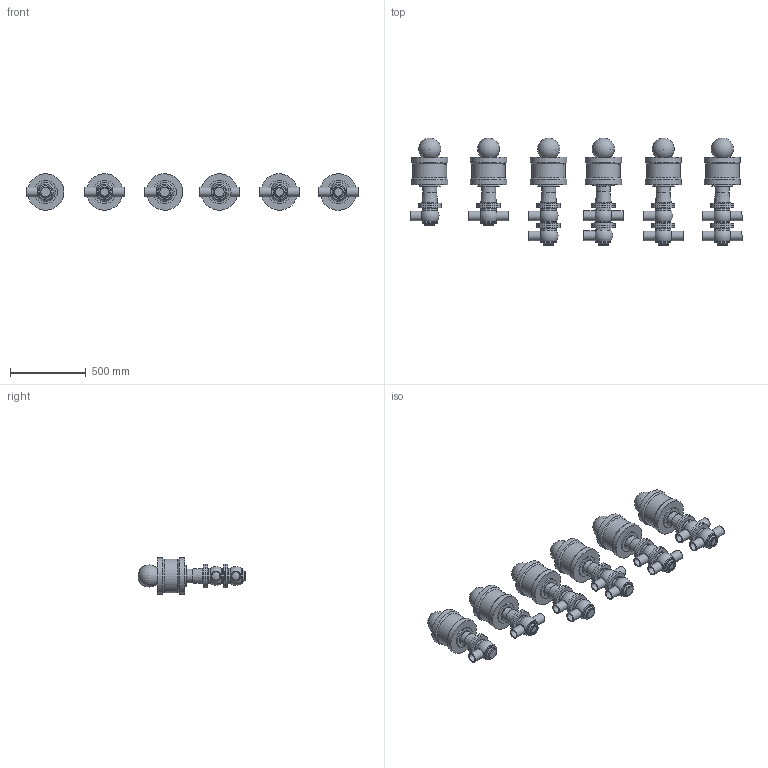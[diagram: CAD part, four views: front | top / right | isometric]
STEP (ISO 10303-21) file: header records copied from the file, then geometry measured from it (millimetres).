
FILE_DESCRIPTION(/* description */ (''),/* implementation_level */ '2;1');
FILE_NAME(/* name */ 'C:\Users\marz-m\Desktop\PDF\BBZQ 3D STEP\BBZQ-DN63.5-CIL.207.stp',/* time_stamp */ '2018-04-13T15:16:16+02:00',/* author */ ('marz-m'),/* organization */ (''),/* preprocessor_version */ 'ST-DEVELOPER v17',/* originating_system */ 'Autodesk Inventor 2018',/* authorisation */ '');
FILE_SCHEMA (('AUTOMOTIVE_DESIGN { 1 0 10303 214 3 1 1 }'));
Length unit declared in the file: millimetre
Products named in the file (8): BBZQ-DN63.5-CIL.207; ASSEMBL-CIL207--360-BBZQ-DN065; CILINDRO 207; SAGOMA-GIOTTO-; COR-INF-L-BBZQ-DN63.5; CORPO SUP- DN63.5 L; CORPO SUP- DN63.5 T; COR-INF-T-BBZQ-DN63.5
Assembly tree (28 placements, depth 2):
  BBZQ-DN63.5-CIL.207
    ASSEMBL-CIL207--360-BBZQ-DN065  x6
    COR-INF-L-BBZQ-DN63.5  x3
    COR-INF-T-BBZQ-DN63.5  x3
    CORPO SUP- DN63.5 L  x2
    CORPO SUP- DN63.5 T  x2
    CILINDRO 207  x6
    SAGOMA-GIOTTO-  x6
Bounding box: 2186.26 x 709.47 x 240 mm (x, y, z)
Volume: 72794256.2 mm3; surface area: 3833721.8 mm2
Topology: 28 solids, 28 shells, 362 faces, 901 edges, 666 vertices
Faces by surface type: cylinder 139, plane 112, torus 44, cone 36, sphere 31
Full cylindrical faces by diameter (mm): 25.4 x6, 53.5 x18, 63.5 x21, 68 x6, 69.8 x6, 70 x6, 80 x6, 92 x6, 101 x20, 141 x6, 154 x20, 221 x6, 240 x12
Entity records: 3671 total; most frequent: DIRECTION 723, CARTESIAN_POINT 570, ORIENTED_EDGE 494, AXIS2_PLACEMENT_3D 338, EDGE_CURVE 247, CIRCLE 200, VERTEX_POINT 185, EDGE_LOOP 130
